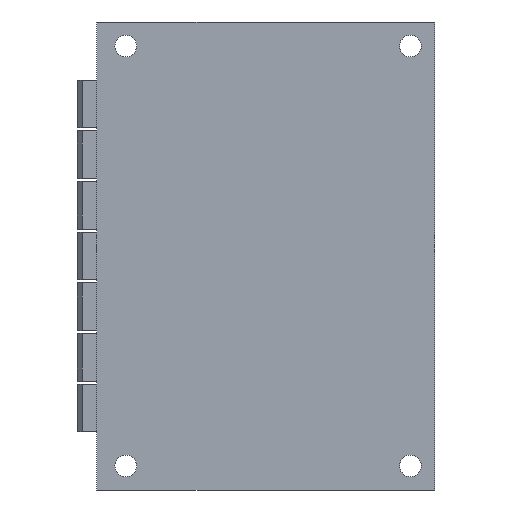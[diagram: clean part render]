
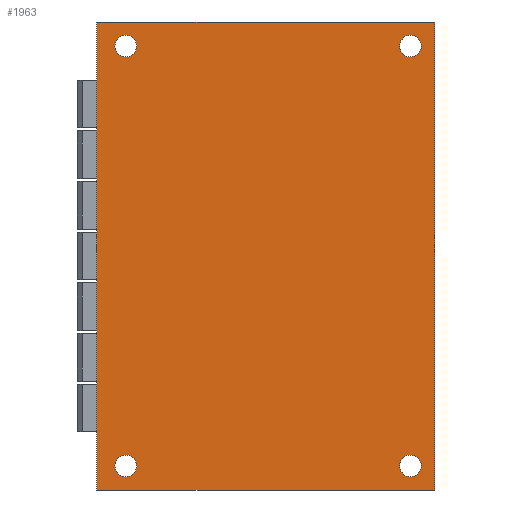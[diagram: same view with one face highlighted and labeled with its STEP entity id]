
A CAD part, front view. The second image highlights one B-rep face of the part: STEP entity #1963.
In plain terms, the highlighted planar face has unit normal (0, -1, 0) as drawn and (0, 0, 1) by its records, which use the part's own axes.
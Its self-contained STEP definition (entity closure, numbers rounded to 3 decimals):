
#1963=ADVANCED_FACE('',(#4351,#4352,#4353,#4354,#4355),#4356,.T.);
#4351=FACE_BOUND('',#7079,.T.);
#4352=FACE_BOUND('',#7080,.T.);
#4353=FACE_BOUND('',#7081,.T.);
#4354=FACE_BOUND('',#7082,.T.);
#4355=FACE_OUTER_BOUND('',#7083,.T.);
#4356=PLANE('',#7084);
#7079=EDGE_LOOP('',(#15487));
#7080=EDGE_LOOP('',(#15488));
#7081=EDGE_LOOP('',(#15489));
#7082=EDGE_LOOP('',(#15490));
#7083=EDGE_LOOP('',(#15491,#15492,#15493,#15494));
#7084=AXIS2_PLACEMENT_3D('',#15495,#15496,#15497);
#15487=ORIENTED_EDGE('',*,*,#20134,.F.);
#15488=ORIENTED_EDGE('',*,*,#20128,.T.);
#15489=ORIENTED_EDGE('',*,*,#20135,.F.);
#15490=ORIENTED_EDGE('',*,*,#20136,.T.);
#15491=ORIENTED_EDGE('',*,*,#20119,.T.);
#15492=ORIENTED_EDGE('',*,*,#20108,.T.);
#15493=ORIENTED_EDGE('',*,*,#20099,.T.);
#15494=ORIENTED_EDGE('',*,*,#20103,.T.);
#15495=CARTESIAN_POINT('',(-48.5,-35.0,25.889));
#15496=DIRECTION('',(0.0,0.0,1.0));
#15497=DIRECTION('',(1.0,0.0,0.0));
#20099=EDGE_CURVE('',#24900,#24898,#24901,.T.);
#20103=EDGE_CURVE('',#24898,#24905,#24907,.T.);
#20108=EDGE_CURVE('',#24916,#24900,#24917,.T.);
#20119=EDGE_CURVE('',#24905,#24916,#24936,.T.);
#20128=EDGE_CURVE('',#24953,#24953,#24954,.T.);
#20134=EDGE_CURVE('',#24965,#24965,#24966,.T.);
#20135=EDGE_CURVE('',#24967,#24967,#24968,.T.);
#20136=EDGE_CURVE('',#24969,#24969,#24970,.T.);
#24898=VERTEX_POINT('',#32460);
#24900=VERTEX_POINT('',#32463);
#24901=LINE('',#32464,#32465);
#24905=VERTEX_POINT('',#32471);
#24907=LINE('',#32474,#32475);
#24916=VERTEX_POINT('',#32485);
#24917=LINE('',#32486,#32487);
#24936=LINE('',#32508,#32509);
#24953=VERTEX_POINT('',#32526);
#24954=CIRCLE('',#32527,2.25);
#24965=VERTEX_POINT('',#32538);
#24966=CIRCLE('',#32539,2.25);
#24967=VERTEX_POINT('',#32540);
#24968=CIRCLE('',#32541,2.25);
#24969=VERTEX_POINT('',#32542);
#24970=CIRCLE('',#32543,2.25);
#32460=CARTESIAN_POINT('',(48.5,35.0,25.889));
#32463=CARTESIAN_POINT('',(48.5,-35.0,25.889));
#32464=CARTESIAN_POINT('',(48.5,-35.0,25.889));
#32465=VECTOR('',#37484,1.0);
#32471=CARTESIAN_POINT('',(-48.5,35.0,25.889));
#32474=CARTESIAN_POINT('',(48.5,35.0,25.889));
#32475=VECTOR('',#37488,1.0);
#32485=CARTESIAN_POINT('',(-48.5,-35.0,25.889));
#32486=CARTESIAN_POINT('',(-48.5,-35.0,25.889));
#32487=VECTOR('',#37499,1.0);
#32508=CARTESIAN_POINT('',(-48.5,35.0,25.889));
#32509=VECTOR('',#37526,1.0);
#32526=CARTESIAN_POINT('',(-45.75,30.0,25.889));
#32527=AXIS2_PLACEMENT_3D('',#37551,#37552,#37553);
#32538=CARTESIAN_POINT('',(45.75,30.0,25.889));
#32539=AXIS2_PLACEMENT_3D('',#37569,#37570,#37571);
#32540=CARTESIAN_POINT('',(45.75,-29.0,25.889));
#32541=AXIS2_PLACEMENT_3D('',#37572,#37573,#37574);
#32542=CARTESIAN_POINT('',(-45.75,-29.0,25.889));
#32543=AXIS2_PLACEMENT_3D('',#37575,#37576,#37577);
#37484=DIRECTION('',(0.0,1.0,0.0));
#37488=DIRECTION('',(-1.0,0.0,0.0));
#37499=DIRECTION('',(1.0,0.0,0.0));
#37526=DIRECTION('',(0.0,-1.0,0.0));
#37551=CARTESIAN_POINT('',(-43.5,30.0,25.889));
#37552=DIRECTION('',(0.0,0.0,-1.0));
#37553=DIRECTION('',(-1.0,0.0,0.0));
#37569=CARTESIAN_POINT('',(43.5,30.0,25.889));
#37570=DIRECTION('',(0.0,0.0,1.0));
#37571=DIRECTION('',(1.0,0.0,0.0));
#37572=CARTESIAN_POINT('',(43.5,-29.0,25.889));
#37573=DIRECTION('',(0.0,0.0,1.0));
#37574=DIRECTION('',(1.0,0.0,0.0));
#37575=CARTESIAN_POINT('',(-43.5,-29.0,25.889));
#37576=DIRECTION('',(0.0,0.0,-1.0));
#37577=DIRECTION('',(-1.0,0.0,0.0));
